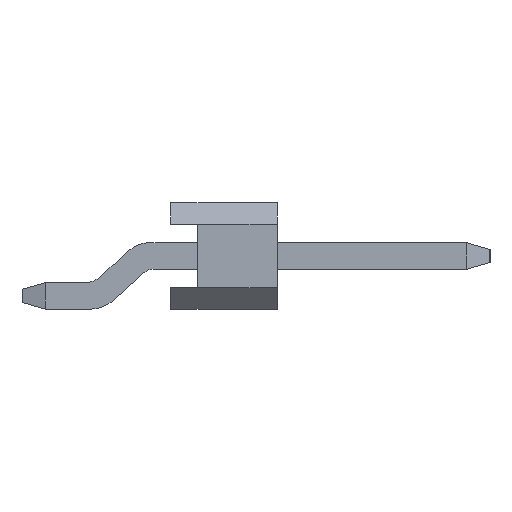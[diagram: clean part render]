
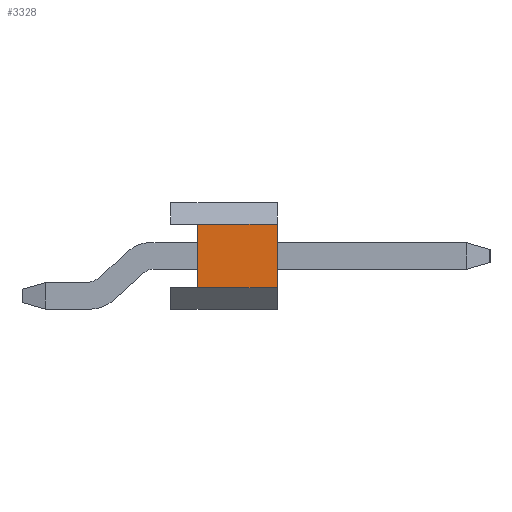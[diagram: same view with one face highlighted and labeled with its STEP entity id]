
A CAD part, left-side view. The second image highlights one B-rep face of the part: STEP entity #3328.
In plain terms, the highlighted planar face has unit normal (-1, 0, 0).
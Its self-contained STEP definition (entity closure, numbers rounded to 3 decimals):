
#3328=ADVANCED_FACE('',(#6711),#6712,.T.);
#6711=FACE_OUTER_BOUND('',#10088,.T.);
#6712=PLANE('',#10089);
#10088=EDGE_LOOP('',(#20052,#20053,#20054,#20055));
#10089=AXIS2_PLACEMENT_3D('',#20056,#20057,#20058);
#20052=ORIENTED_EDGE('',*,*,#23010,.T.);
#20053=ORIENTED_EDGE('',*,*,#23965,.T.);
#20054=ORIENTED_EDGE('',*,*,#23496,.T.);
#20055=ORIENTED_EDGE('',*,*,#23967,.F.);
#20056=CARTESIAN_POINT('',(-29.,0.,0.));
#20057=DIRECTION('',(-1.0,-0.0,0.0));
#20058=DIRECTION('',(0.0,0.,-1.0));
#23010=EDGE_CURVE('',#28241,#27748,#28288,.T.);
#23496=EDGE_CURVE('',#29014,#29012,#29015,.T.);
#23965=EDGE_CURVE('',#27748,#29014,#29593,.T.);
#23967=EDGE_CURVE('',#28241,#29012,#29595,.T.);
#27748=VERTEX_POINT('',#35002);
#28241=VERTEX_POINT('',#35714);
#28288=LINE('',#35798,#35799);
#29012=VERTEX_POINT('',#36912);
#29014=VERTEX_POINT('',#36915);
#29015=LINE('',#36916,#36917);
#29593=LINE('',#37770,#37771);
#29595=LINE('',#37773,#37774);
#35002=CARTESIAN_POINT('',(-29.,-0.5,-0.6));
#35714=CARTESIAN_POINT('',(-29.,-0.5,0.6));
#35798=CARTESIAN_POINT('',(-29.,-0.5,0.));
#35799=VECTOR('',#40358,1.0);
#36912=CARTESIAN_POINT('',(-29.,-2.0,0.6));
#36915=CARTESIAN_POINT('',(-29.,-2.0,-0.6));
#36916=CARTESIAN_POINT('',(-29.,-2.0,0.6));
#36917=VECTOR('',#40749,1.0);
#37770=CARTESIAN_POINT('',(-29.,0.,-0.6));
#37771=VECTOR('',#41025,1.0);
#37773=CARTESIAN_POINT('',(-29.,0.,0.6));
#37774=VECTOR('',#41026,1.0);
#40358=DIRECTION('',(0.0,0.,-1.0));
#40749=DIRECTION('',(0.0,0.,1.0));
#41025=DIRECTION('',(0.0,-1.0,0.));
#41026=DIRECTION('',(0.0,-1.0,0.));
